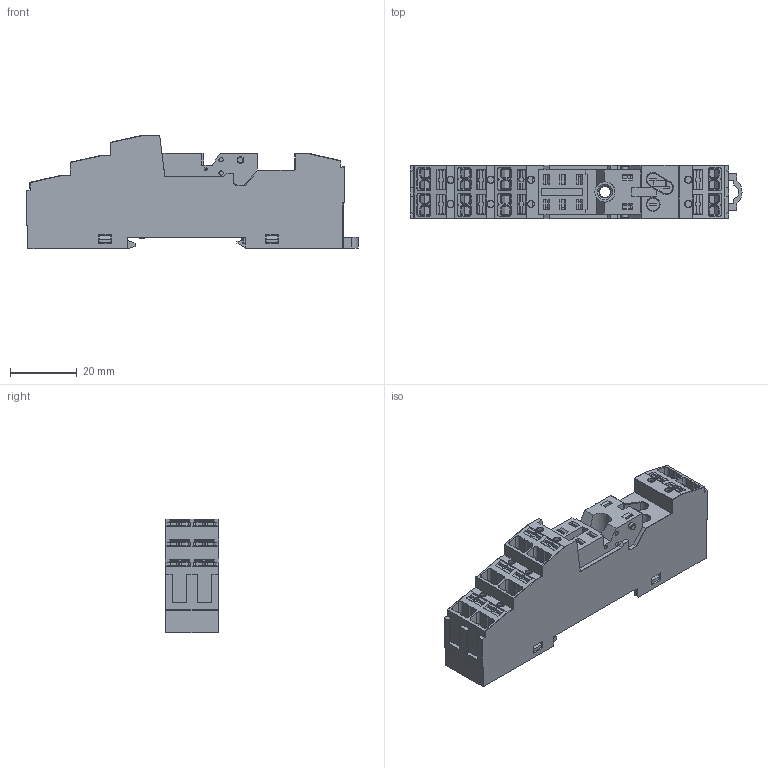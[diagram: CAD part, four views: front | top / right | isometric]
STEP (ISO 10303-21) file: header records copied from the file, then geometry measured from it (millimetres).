
FILE_DESCRIPTION(/* description */ (''),/* implementation_level */ '2;1');
FILE_NAME(/* name */ '157f2zc5.stp',/* time_stamp */ '2022-04-19T12:44:30+08:00',/* author */ (''),/* organization */ (''),/* preprocessor_version */ 'ST-DEVELOPER v11',/* originating_system */ 'SIEMENS UGS NX 6.0',/* authorisation */ '');
FILE_SCHEMA (('CONFIG_CONTROL_DESIGN'));
Products named in the file (1): 157f2zc5
Bounding box: 99.85 x 16 x 34.2 mm (x, y, z)
Volume: 18252.8 mm3; surface area: 33471.5 mm2
Topology: 14 solids, 14 shells, 2002 faces, 5673 edges, 3683 vertices
Faces by surface type: plane 1494, cylinder 368, cone 77, torus 24, bspline 21, sphere 18
Full cylindrical faces by diameter (mm): 1.3 x4, 2 x10, 3.2 x2, 3.8 x1, 5.3 x1, 6.1 x1
Entity records: 64920 total; most frequent: CARTESIAN_POINT 12436, ORIENTED_EDGE 11268, DIRECTION 10317, EDGE_CURVE 5634, LINE 4677, VECTOR 4677, VERTEX_POINT 3700, AXIS2_PLACEMENT_3D 2820
